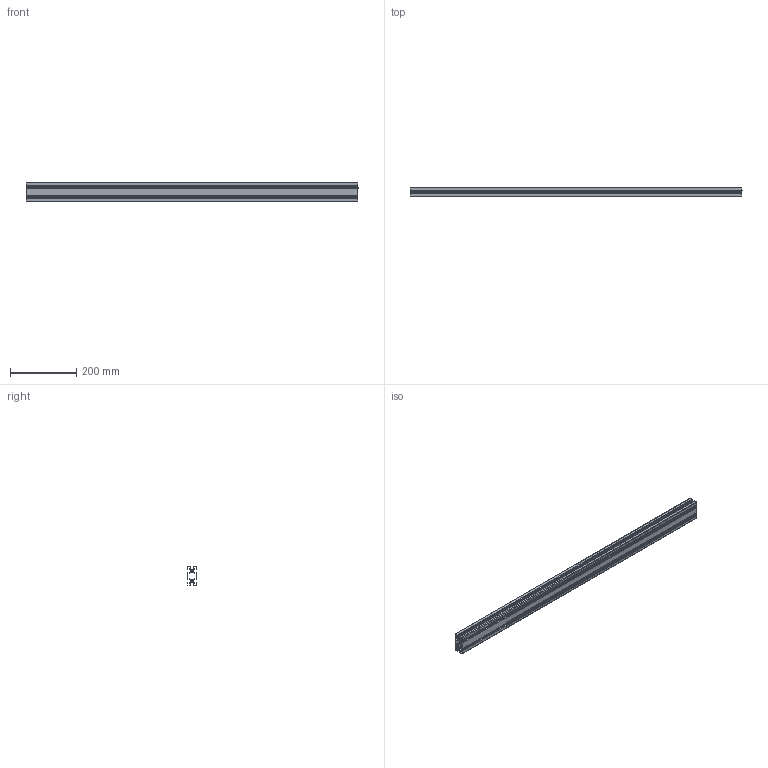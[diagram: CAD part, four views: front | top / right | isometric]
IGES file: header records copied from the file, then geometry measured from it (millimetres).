
Start section: SolidWorks IGES file using analytic representation for surfaces
Bounding box: 1000 x 30 x 60 mm (x, y, z)
Surface area: 579980.6 mm2 (no closed solid volume)
Topology: 0 solids, 0 shells, 269 faces, 2594 edges, 2594 vertices
Faces by surface type: revolution 151, bspline 118
